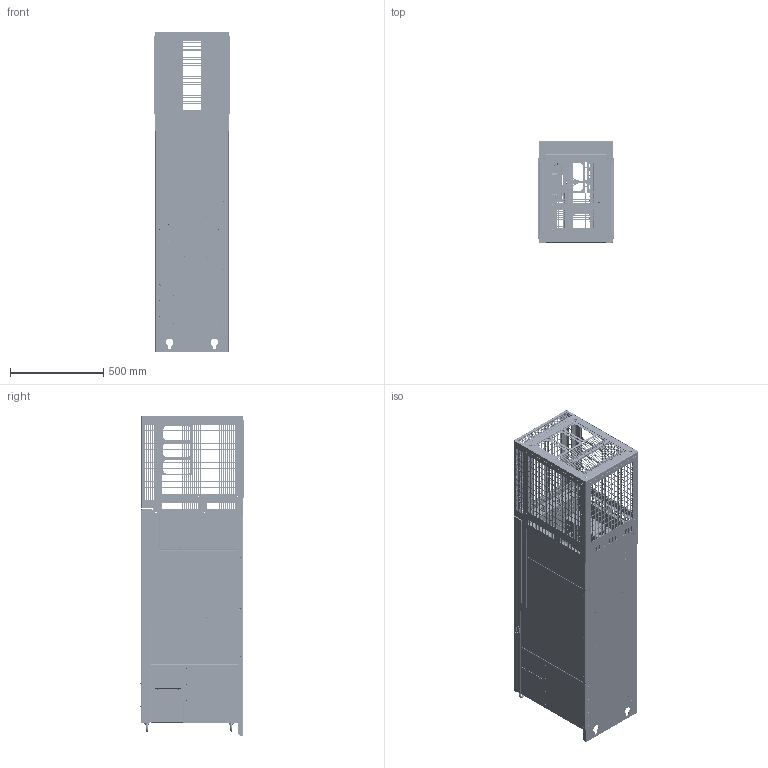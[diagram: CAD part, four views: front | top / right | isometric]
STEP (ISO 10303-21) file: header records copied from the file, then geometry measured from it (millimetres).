
FILE_DESCRIPTION((''),'2;1');
FILE_NAME('NVF7-315T-S4-2_ASM','2025-09-17T10:30:12',('dysunht'),(''),'CREO PARAMETRIC BY PTC INC, 2020044','CREO PARAMETRIC BY PTC INC, 2020044','');
FILE_SCHEMA(('CONFIG_CONTROL_DESIGN','SHAPE_APPEARANCE_LAYERS_GROUPS'));
Products named in the file (171): BB-25-01_348; TPS-5-16_9; S-M6-1_2; S-M4-2_8; BB-25-01_ASM_267_ASM; BBJQ-25-01_15; YCB-20-S01_30; S-M5-2_1; BSO-3_5M3X20_9; SOO-3_5M3-8_14; YCB-20-S01_ASM_32_ASM; DRB-20-01_338; S-M4-1_6; DRB-20-01_ASM_190_ASM; ZGB-12-01_18; ZGB-12-01_ASM_19_ASM; ZGB-20-01_41; BSO-M5X12_8; S-M3-2_2; ZGB-20-01_ASM_29_ASM; ZXGB-20-01_361; FH-M4X10_7; ZXGB-20-01_ASM_296_ASM; QSGB-20-01_347; BSO-M4X10_3; QSGB-20-01_ASM_324_ASM; QXGB-20-01_366; SOO-M3-8_10; QXGB-20-01_ASM_344_ASM; TS-20-01_339; JDZJ-15-01_336; S-M8-1_6; JDZJ-15-01_ASM_337_ASM; ZFCX-15-01_53; ZFCX-15-01_ASM_16_ASM; DKQ-25-01_14; FDZJ-12-01_8; CXCB-20-01_336; TPS-5-20_3; CXCB-20-01_ASM_12_ASM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
Assembly tree (621 placements, depth 7):
  NVF7-315T-S4-2_ASM
    00-450P-ASM_ASM_278_ASM
      5002V1607_ASM_317_ASM
        5823V1613_ASM_380_ASM
          BB-25-01_ASM_267_ASM
            BB-25-01_348
            TPS-5-16_9  x2
            S-M6-1_2  x2
            S-M4-2_8  x7
          BBJQ-25-01_15
          YCB-20-S01_ASM_32_ASM
            YCB-20-S01_30
            S-M5-2_1  x4
            BSO-3_5M3X20_9  x4
            SOO-3_5M3-8_14  x9
          DRB-20-01_ASM_190_ASM
            DRB-20-01_338
            S-M5-2_1  x8
            S-M4-1_6  x42
            S-M6-1_2
          ZGB-12-01_ASM_19_ASM
            ZGB-12-01_18
            S-M5-2_1  x4
          ZGB-20-01_ASM_29_ASM
            ZGB-20-01_41
            S-M5-2_1  x2
            S-M4-1_6  x2
            BSO-M5X12_8  x4
            S-M3-2_2
          ZXGB-20-01_ASM_296_ASM
            ZXGB-20-01_361
            FH-M4X10_7  x2
            S-M5-2_1  x4
            S-M3-2_2  x2
            S-M6-1_2
          QSGB-20-01_ASM_324_ASM
            QSGB-20-01_347
            S-M4-1_6  x3
            S-M5-2_1  x2
            BSO-M4X10_3  x6
          QXGB-20-01_ASM_344_ASM
            QXGB-20-01_366
            S-M6-1_2  x13
            S-M4-1_6  x7
            S-M5-2_1  x4
            SOO-M3-8_10  x5
          TS-20-01_339
          JDZJ-15-01_ASM_337_ASM
            JDZJ-15-01_336
            S-M8-1_6  x2
          ZFCX-15-01_ASM_16_ASM
            ZFCX-15-01_53
            S-M6-1_2  x4
            S-M4-2_8  x2
          DKQ-25-01_14
          FDZJ-12-01_8
          CXCB-20-01_ASM_12_ASM
            CXCB-20-01_336
            TPS-5-20_3  x2
          SZJ-20-01_ASM_10_ASM
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Bounding box: 404 x 552.72 x 1710 mm (x, y, z)
Volume: 14597226.6 mm3; surface area: 13682407 mm2
Topology: 568 solids, 624 shells, 51349 faces, 142405 edges, 93701 vertices
Faces by surface type: plane 39675, cylinder 5466, cone 3766, torus 958, bspline 612, revolution 470, extrusion 394, sphere 8
Entity records: 791181 total; most frequent: CARTESIAN_POINT 131498, ORIENTED_EDGE 109431, DIRECTION 103024, EDGE_CURVE 54840, VECTOR 46064, LINE 45985, VERTEX_POINT 36055, AXIS2_PLACEMENT_3D 28475
